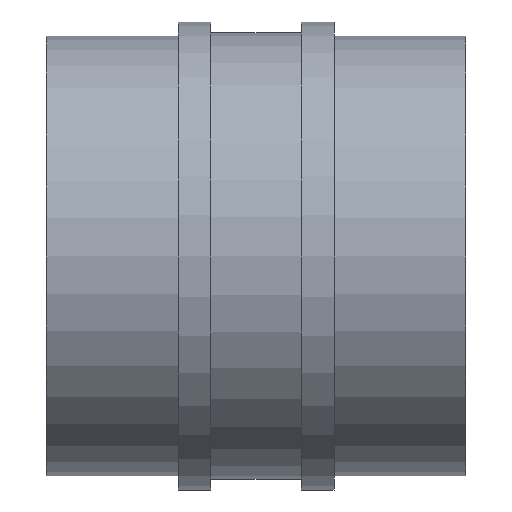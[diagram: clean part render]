
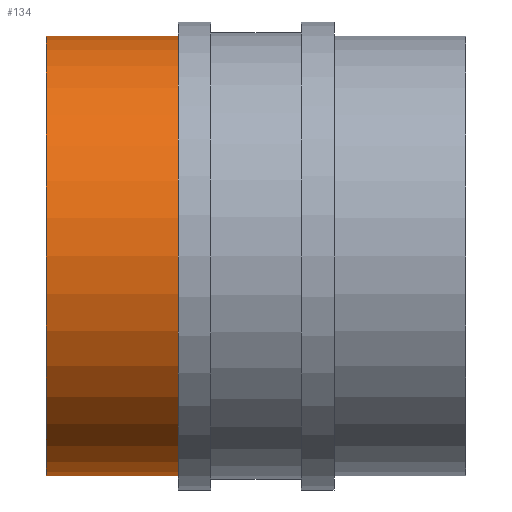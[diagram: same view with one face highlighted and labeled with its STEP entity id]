
A CAD part, front view. The second image highlights one B-rep face of the part: STEP entity #134.
In plain terms, the highlighted cylindrical face has radius 100 mm (diameter 200 mm), a full revolution.
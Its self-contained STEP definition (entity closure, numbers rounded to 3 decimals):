
#13=CYLINDRICAL_SURFACE($,#151,100.);
#20=FACE_BOUND($,#46,.T.);
#35=FACE_OUTER_BOUND($,#45,.T.);
#45=EDGE_LOOP($,(#105));
#46=EDGE_LOOP($,(#106));
#67=CIRCLE($,#149,100.);
#69=CIRCLE($,#152,100.);
#79=VERTEX_POINT($,#224);
#81=VERTEX_POINT($,#229);
#91=EDGE_CURVE($,#79,#79,#67,.T.);
#93=EDGE_CURVE($,#81,#81,#69,.T.);
#105=ORIENTED_EDGE($,*,*,#93,.F.);
#106=ORIENTED_EDGE($,*,*,#91,.T.);
#134=ADVANCED_FACE($,(#35,#20),#13,.T.);
#149=AXIS2_PLACEMENT_3D($,#225,#176,#177);
#151=AXIS2_PLACEMENT_3D($,#228,#180,#181);
#152=AXIS2_PLACEMENT_3D($,#230,#182,#183);
#176=DIRECTION('center_axis',(1.,0.,0.));
#177=DIRECTION('ref_axis',(0.,1.,0.));
#180=DIRECTION('center_axis',(1.,0.,0.));
#181=DIRECTION('ref_axis',(0.,1.,0.));
#182=DIRECTION('center_axis',(1.,0.,0.));
#183=DIRECTION('ref_axis',(0.,1.,0.));
#224=CARTESIAN_POINT('',(0.,100.,0.));
#225=CARTESIAN_POINT('Origin',(0.,0.,0.));
#228=CARTESIAN_POINT('Origin',(30.,0.,0.));
#229=CARTESIAN_POINT('',(60.,100.,0.));
#230=CARTESIAN_POINT('Origin',(60.,0.,0.));
